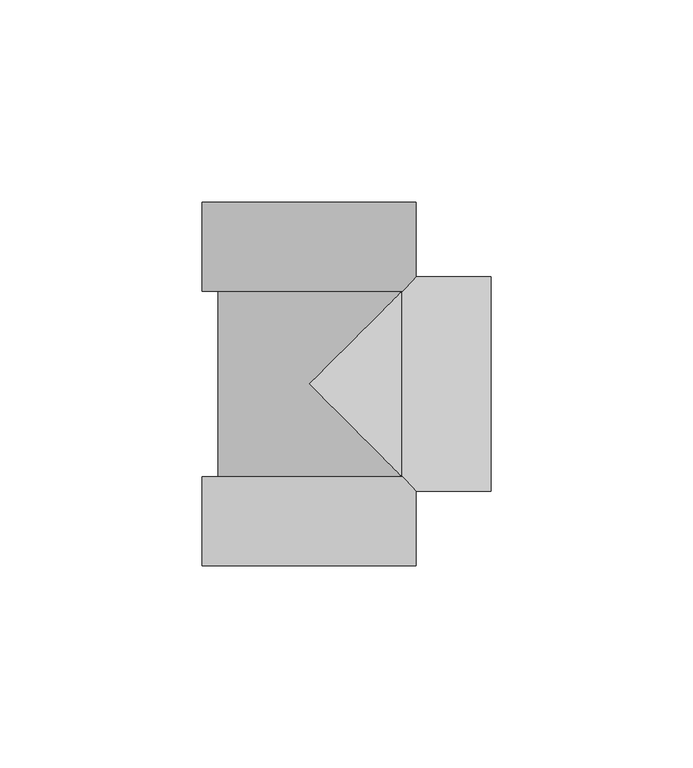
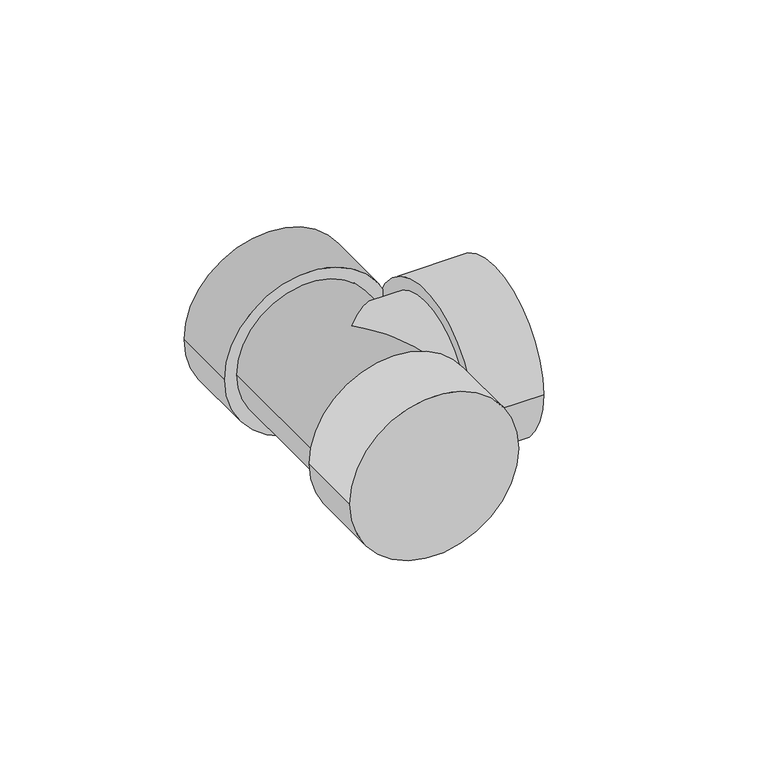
"""IFC4 building model written with IfcOpenShell, lengths in millimetres: pipe fitting geometry, 01011003 : Tê a 90º."""

from ifc_helpers import new_model, si_unit, point, frame, origin, origin_2d, place, context, project, spatial, circle_curve, ellipse_curve, trimmed, segment, composite_curve, outline, extrude, source, transform, mapped, element, save
from ifc_brep_helpers import plane_surface, cylinder_surface, advanced_brep


def pipe_fitting_ade686bd(model_context):
    return source(origin(), model_context, "Body", "SolidModel", [
        advanced_brep(
        [(-22.525, 25.0, 0.0), (22.525, 25.0, 0.0), (-22.525, -25.0, 0.0), (22.525, -25.0, 0.0), (22.525, -22.525, 0.0), (0.0, 0.0, 22.525), (22.525, 22.525, 0.0), (0.0, 0.0, -22.525), (25.0, 22.525, 0.0), (25.0, -22.525, 0.0)],
        [
            (0, 1, circle_curve(frame((0.0, 25.0, 0.0), z_axis=(0.0, 1.0, 0.0), x_axis=(1.0, 0.0, 0.0)), 22.525)),
            (1, 0, circle_curve(frame((0.0, 25.0, 0.0), z_axis=(0.0, 1.0, 0.0), x_axis=(1.0, 0.0, 0.0)), 22.525)),
            (2, 3, circle_curve(frame((0.0, -25.0, 0.0), z_axis=(0.0, -1.0, 0.0), x_axis=(1.0, 0.0, 0.0)), 22.525)),
            (3, 2, circle_curve(frame((0.0, -25.0, 0.0), z_axis=(0.0, -1.0, 0.0), x_axis=(1.0, 0.0, 0.0)), 22.525)),
            (0, 2),
            (3, 4),
            (4, 5, ellipse_curve(frame((0.0, 0.0, 0.0), z_axis=(-0.7071067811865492, -0.7071067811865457, 0.0), x_axis=(-0.7071067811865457, 0.7071067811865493, 0.0)), 31.8551605, 22.525)),
            (5, 6, ellipse_curve(frame((0.0, 0.0, 0.0), z_axis=(-0.7071067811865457, 0.7071067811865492, 0.0), x_axis=(0.7071067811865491, 0.7071067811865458, 0.0)), 31.8551605, 22.525)),
            (6, 1),
            (6, 7, ellipse_curve(frame((0.0, 0.0, 0.0), z_axis=(-0.7071067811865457, 0.7071067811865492, 0.0), x_axis=(0.7071067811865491, 0.7071067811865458, 0.0)), 31.8551605, 22.525)),
            (7, 4, ellipse_curve(frame((0.0, 0.0, 0.0), z_axis=(-0.7071067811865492, -0.7071067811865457, 0.0), x_axis=(-0.7071067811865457, 0.7071067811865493, 0.0)), 31.8551605, 22.525)),
            (8, 9, circle_curve(frame((25.0, 0.0, 0.0), z_axis=(1.0, 0.0, 0.0), x_axis=(0.0, -1.0, 0.0)), 22.525)),
            (9, 8, circle_curve(frame((25.0, 0.0, 0.0), z_axis=(1.0, 0.0, 0.0), x_axis=(0.0, -1.0, 0.0)), 22.525)),
            (8, 6),
            (4, 9),
        ],
        [
            plane_surface(frame((0.0, 25.0, 0.0), z_axis=(0.0, 1.0, 0.0), x_axis=(0.0, 0.0, 1.0))),
            plane_surface(frame((0.0, -25.0, 0.0), z_axis=(0.0, -1.0, 0.0), x_axis=(0.0, 0.0, 1.0))),
            cylinder_surface(frame((0.0, 25.0, 0.0), z_axis=(0.0, 1.0, 0.0), x_axis=(1.0, 0.0, 0.0)), 22.525),
            plane_surface(frame((25.0, 0.0, 0.0), z_axis=(1.0, 0.0, 0.0), x_axis=(0.0, 0.0, 1.0))),
            cylinder_surface(frame((25.0, 0.0, 0.0), z_axis=(1.0, 0.0, 0.0), x_axis=(0.0, -1.0, 0.0)), 22.525),
        ],
        [
            (0, [[1, 2]]),
            (1, [[3, 4]]),
            (2, [[-1, 5, -4, 6, 7, 8, 9]]),
            (2, [[-2, -9, 10, 11, -6, -3, -5]]),
            (3, [[12, 13]]),
            (4, [[-12, 14, -8, -7, 15]]),
            (4, [[-13, -15, -11, -10, -14]]),
        ],
    ),
        extrude(outline(composite_curve([segment(trimmed(circle_curve(origin_2d(), 26.5), [point((0.0, -26.5))], [point((0.0, 26.5))], False, "CARTESIAN"), True, "CONTINUOUS"), segment(trimmed(circle_curve(origin_2d(), 26.5), [point((0.0, 26.5))], [point((0.0, -26.5))], False, "CARTESIAN"), True, "CONTINUOUS")], self_intersect=False)), frame((0.0, 23.0, 0.0), z_axis=(0.0, 1.0, 0.0), x_axis=(0.0, 0.0, 1.0)), (0.0, 0.0, 1.0), 22.0),
        extrude(outline(composite_curve([segment(trimmed(circle_curve(origin_2d(), 26.5), [point((0.0, 26.5))], [point((0.0, -26.5))], False, "CARTESIAN"), True, "CONTINUOUS"), segment(trimmed(circle_curve(origin_2d(), 26.5), [point((0.0, -26.5))], [point((0.0, 26.5))], False, "CARTESIAN"), True, "CONTINUOUS")], self_intersect=False)), frame((0.0, -45.0, 0.0), z_axis=(0.0, 1.0, 0.0), x_axis=(0.0, 0.0, 1.0)), (0.0, 0.0, 1.0), 22.0),
        extrude(outline(composite_curve([segment(trimmed(circle_curve(origin_2d(), 26.5), [point((26.5, 0.0))], [point((-26.5, 0.0))], False, "CARTESIAN"), True, "CONTINUOUS"), segment(trimmed(circle_curve(origin_2d(), 26.5), [point((-26.5, 0.0))], [point((26.5, 0.0))], False, "CARTESIAN"), True, "CONTINUOUS")], self_intersect=False)), frame((23.0, 0.0, 0.0), z_axis=(1.0, 0.0, 0.0), x_axis=(0.0, 1.0, 0.0)), (0.0, 0.0, 1.0), 22.0),
    ])


if __name__ == "__main__":
    model = new_model("IFC4")
    model_context = context("Model", 3, world=origin())
    ifc_project = project(units=[si_unit("LENGTHUNIT", "METRE", prefix="MILLI")], contexts=[model_context])
    site = spatial("IfcSite", under=ifc_project)
    building = spatial("IfcBuilding", under=site)
    placement = place(None, origin())
    pipe_fitting_shape = pipe_fitting_ade686bd(model_context)
    element("IfcPipeFitting", 1, ObjectType="01011003 : Tê a 90º", at=placement, inside=building, context=model_context, shape_type="MappedRepresentation", body=[
        mapped(pipe_fitting_shape, transform((0.0, 0.0, 0.0), x_axis=(1.0, 0.0, 0.0), y_axis=(0.0, 1.0, 0.0), z_axis=(0.0, 0.0, 1.0))),
    ])
    save(model, "model.ifc")
